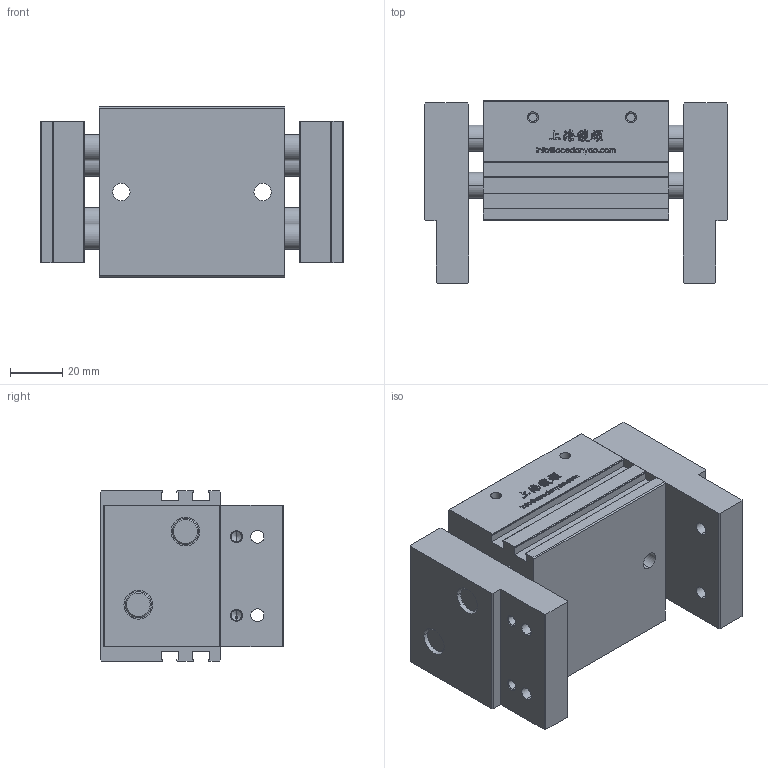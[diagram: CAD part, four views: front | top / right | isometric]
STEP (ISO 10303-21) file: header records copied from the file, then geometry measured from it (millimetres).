
FILE_DESCRIPTION (( 'STEP AP203' ), '1' );
FILE_NAME ('PLE-20-C-20+20-原始檔-組合-W106.04.20.STEP', '2017-04-20T05:55:04', ( 'DanyaoCAD' ), ( '' ), 'SwSTEP 2.0', 'SolidWorks 2016', '' );
FILE_SCHEMA (( 'CONFIG_CONTROL_DESIGN' ));
Length unit declared in the file: millimetre
Products named in the file (3): Griffa; Corpo; PLE-20-C-20+20-原始檔-組合-W106.04.20
Assembly tree (3 placements, depth 2):
  PLE-20-C-20+20-原始檔-組合-W106.04.20
    Griffa  x2
    Corpo
Bounding box: 116 x 70 x 65 mm (x, y, z)
Volume: 314399.2 mm3; surface area: 74328.3 mm2
Topology: 3 solids, 3 shells, 1022 faces, 2825 edges, 1848 vertices
Faces by surface type: bspline 640, plane 238, cylinder 83, cone 61
Entity records: 47838 total; most frequent: CARTESIAN_POINT 26847, ORIENTED_EDGE 5396, EDGE_CURVE 2698, DIRECTION 2245, VERTEX_POINT 1784, B_SPLINE_CURVE_WITH_KNOTS 1292, VECTOR 1257, LINE 1257
